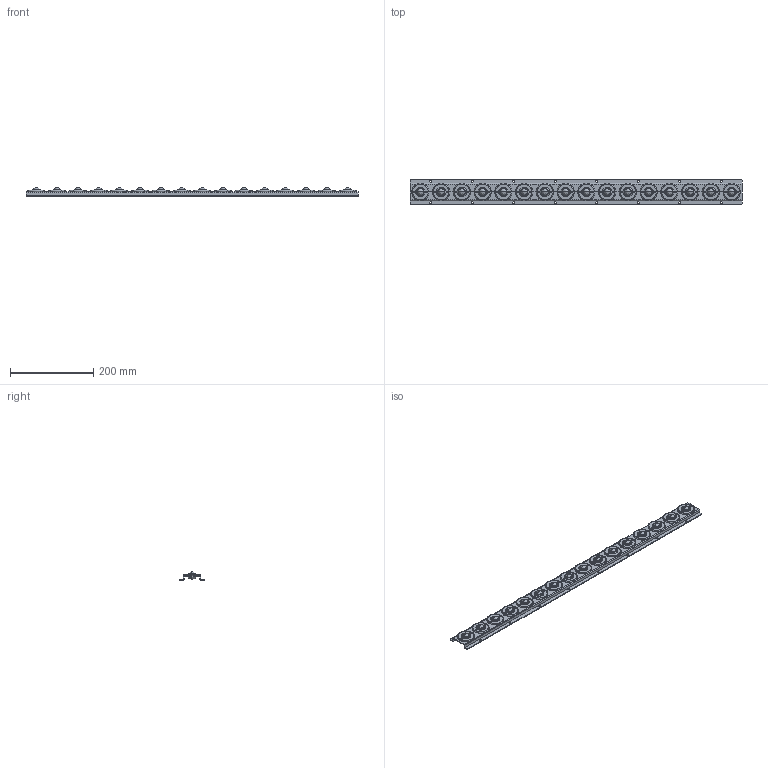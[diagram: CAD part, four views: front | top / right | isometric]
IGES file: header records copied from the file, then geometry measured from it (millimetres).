
Global section: file name: E:\UnigraphicsGraphicData\MISUMI_PRESS-PARTS\IGES\3d_goro-16_03805_r00.igs; native system: NX V5.0; preprocessor: UGS NX IGES V5.0; author: MISUMI; date: 20110105.160722; units: millimetre
Bounding box: 800 x 59 x 21 mm (x, y, z)
Surface area: 139815.5 mm2 (no closed solid volume)
Topology: 0 solids, 0 shells, 408 faces, 3276 edges, 3212 vertices
Faces by surface type: bspline 408
